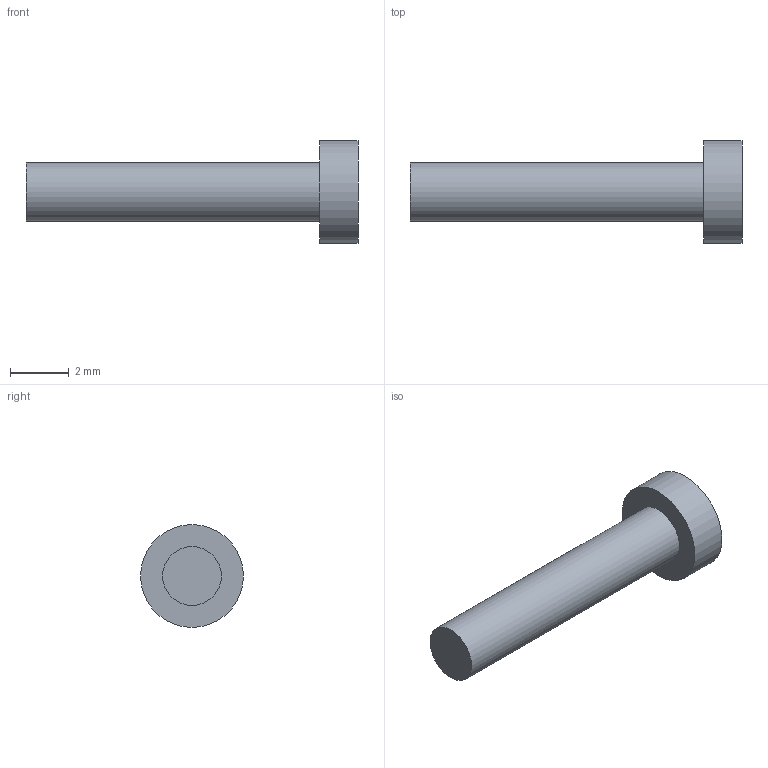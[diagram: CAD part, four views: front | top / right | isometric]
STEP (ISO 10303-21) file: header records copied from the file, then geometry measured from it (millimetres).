
FILE_DESCRIPTION(('Open CASCADE Model'),'2;1');
FILE_NAME('Open CASCADE Shape Model','2026-11-23T18:10:00',('Author'),( 'Open CASCADE'),'Open CASCADE STEP processor 8.0','build123d', 'Unknown');
FILE_SCHEMA(('AUTOMOTIVE_DESIGN { 1 0 10303 214 1 1 1 1 }'));
Length unit declared in the file: millimetre
Products named in the file (1): SOLID
Bounding box: 11.3 x 3.5 x 3.5 mm (x, y, z)
Volume: 43.9 mm3; surface area: 96.4 mm2
Topology: 1 solids, 1 shells, 5 faces, 6 edges, 4 vertices
Faces by surface type: plane 3, cylinder 2
Full cylindrical faces by diameter (mm): 2 x1, 3.5 x1
Entity records: 192 total; most frequent: DIRECTION 34, CARTESIAN_POINT 28, ORIENTED_EDGE 12, PCURVE 12, DEFINITIONAL_REPRESENTATION 12, AXIS2_PLACEMENT_3D 10, LINE 10, VECTOR 10
